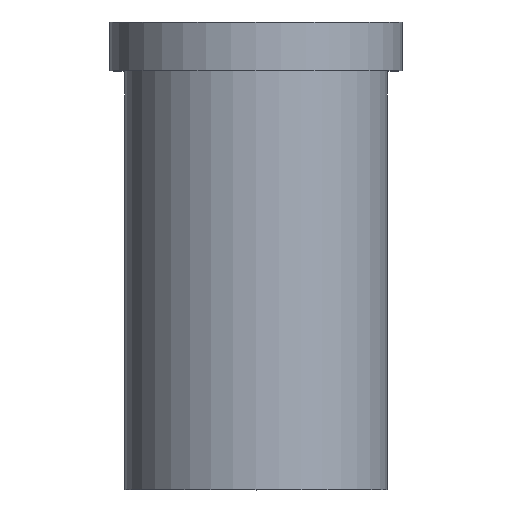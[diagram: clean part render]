
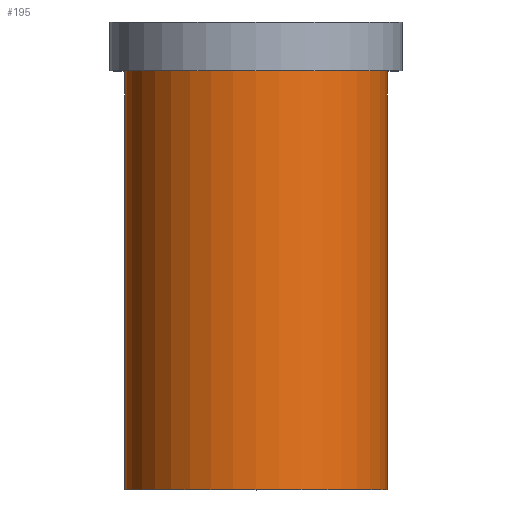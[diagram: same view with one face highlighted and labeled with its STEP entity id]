
A CAD part, top view. The second image highlights one B-rep face of the part: STEP entity #195.
In plain terms, the highlighted cylindrical face has radius 27 mm (diameter 54 mm), a full revolution.
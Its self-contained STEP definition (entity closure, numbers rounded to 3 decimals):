
#32=ORIENTED_EDGE('',*,*,#50,.T.);
#33=ORIENTED_EDGE('',*,*,#49,.F.);
#49=EDGE_CURVE('',#59,#59,#69,.T.);
#50=EDGE_CURVE('',#60,#60,#70,.T.);
#59=VERTEX_POINT('',#280);
#60=VERTEX_POINT('',#283);
#69=CIRCLE('',#213,27.);
#70=CIRCLE('',#215,27.);
#82=EDGE_LOOP('',(#32));
#83=EDGE_LOOP('',(#33));
#102=FACE_BOUND('',#82,.T.);
#103=FACE_BOUND('',#83,.T.);
#117=CYLINDRICAL_SURFACE('',#214,27.);
#195=ADVANCED_FACE('',(#102,#103),#117,.T.);
#213=AXIS2_PLACEMENT_3D('',#279,#241,#242);
#214=AXIS2_PLACEMENT_3D('',#281,#243,#244);
#215=AXIS2_PLACEMENT_3D('',#282,#245,#246);
#241=DIRECTION('',(0.,-1.,0.));
#242=DIRECTION('',(0.,0.,-1.));
#243=DIRECTION('',(0.,-1.,0.));
#244=DIRECTION('',(0.,0.,-1.));
#245=DIRECTION('',(0.,-1.,0.));
#246=DIRECTION('',(0.,0.,-1.));
#279=CARTESIAN_POINT('',(0.,0.,0.));
#280=CARTESIAN_POINT('',(0.,0.,-27.));
#281=CARTESIAN_POINT('',(0.,0.,0.));
#282=CARTESIAN_POINT('',(0.,86.,0.));
#283=CARTESIAN_POINT('',(0.,86.,-27.));
